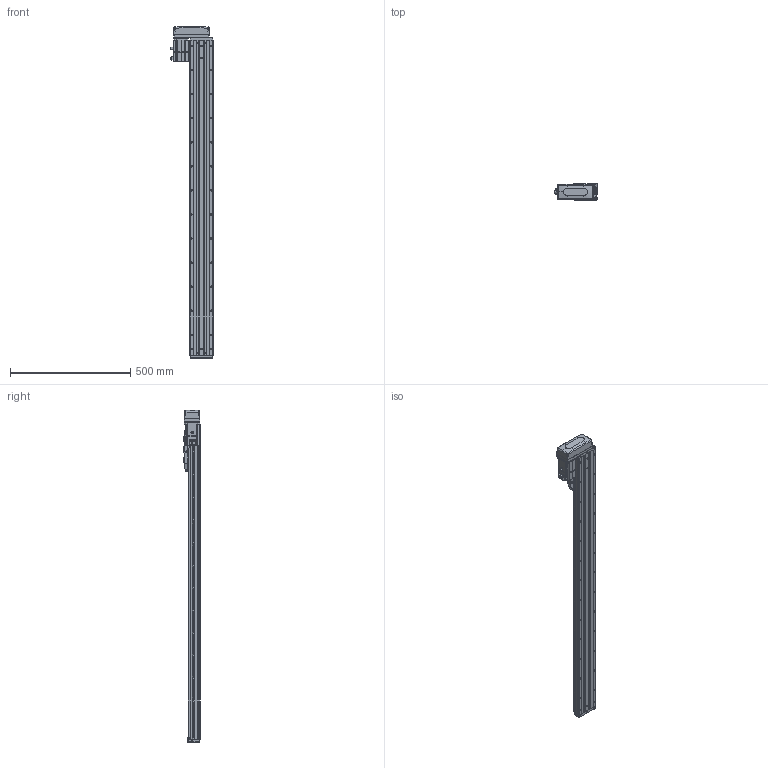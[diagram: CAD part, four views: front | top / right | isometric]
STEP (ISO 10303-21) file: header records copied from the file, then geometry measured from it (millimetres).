
FILE_DESCRIPTION (( 'STEP AP203' ), '1' );
FILE_NAME ('CTHA100-1100-BL-M20-C4L.step', '2022-07-06T09:07:36', ( '微软用户' ), ( '微软中国' ), 'SwSTEP 2.0', 'SolidWorks 2020', '' );
FILE_SCHEMA (( 'CONFIG_CONTROL_DESIGN' ));
Length unit declared in the file: millimetre
Products named in the file (19): CTHA60-017; CTHA100-002; CTHA60-021; CTHA100-031; KTHA100-001_1310; GBT77-2000 M3×3; CTHA86-030; KTHA100-004; GBT 70.1-M3℅6; GBT 70.3-M3℅6; KTHA100-005; GBT70.1 M5℅16; CTHA86-015-1_CTHA86-015-2; GB¨uT 70.2-M3¡Á5_M3¡Á6; CTHA60-016; CTHA86-033; EE_SX911P_R; _X2_4E0983F1_X0_200W_1; CTHA100-1100-BL-M20-C4L
Assembly tree (64 placements, depth 2):
  CTHA100-1100-BL-M20-C4L
    KTHA100-001_1310
    KTHA100-004
    KTHA100-005
    GB¨uT 70.2-M3¡Á5_M3¡Á6  x10
    EE_SX911P_R  x3
    CTHA60-017  x3
    CTHA60-021  x2
    GBT77-2000 M3×3  x6
    GBT 70.1-M3℅6  x10
    GBT70.1 M5℅16  x14
    CTHA60-016  x2
    _X2_4E0983F1_X0_200W_1
    CTHA100-002
    CTHA100-031
    CTHA86-030  x2
    GBT 70.3-M3℅6  x4
    CTHA86-015-1_CTHA86-015-2
    CTHA86-033
Bounding box: 178.52 x 68 x 1381 mm (x, y, z)
Volume: 5413447.9 mm3; surface area: 889927.2 mm2
Topology: 66 solids, 66 shells, 2789 faces, 6751 edges, 4192 vertices
Faces by surface type: plane 1464, cylinder 737, cone 365, torus 124, bspline 75, sphere 24
Entity records: 49868 total; most frequent: CARTESIAN_POINT 9707, DIRECTION 7754, ORIENTED_EDGE 7618, EDGE_CURVE 3809, AXIS2_PLACEMENT_3D 2611, LINE 2532, VECTOR 2532, VERTEX_POINT 2412
